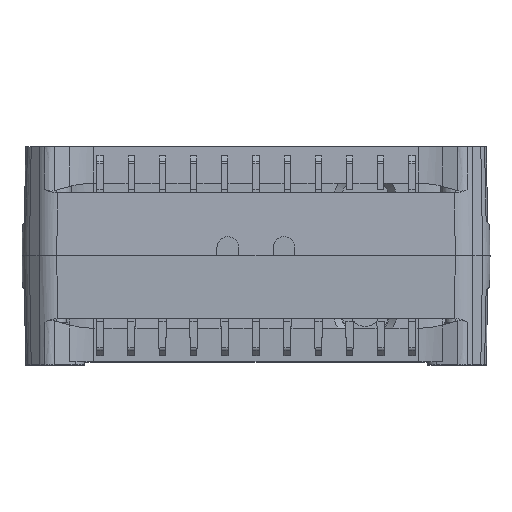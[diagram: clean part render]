
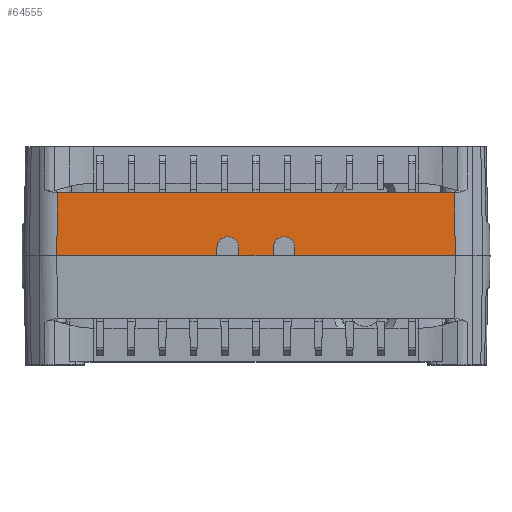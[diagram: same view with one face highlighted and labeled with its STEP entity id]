
A CAD part, top view. The second image highlights one B-rep face of the part: STEP entity #64555.
In plain terms, the highlighted planar face has unit normal (0, 0.018, 1).
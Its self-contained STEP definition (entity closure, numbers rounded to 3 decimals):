
#1798 = EDGE_CURVE ( 'NONE', #99954, #37075, #103978, .T. ) ;
#2261 = LINE ( 'NONE', #51027, #89718 ) ;
#4376 = DIRECTION ( 'NONE',  ( 1., 0., 0. ) ) ;
#5863 = DIRECTION ( 'NONE',  ( 0., 0.017, 1. ) ) ;
#6000 = DIRECTION ( 'NONE',  ( 0., -1., 0.017 ) ) ;
#8360 = CARTESIAN_POINT ( 'NONE',  ( -63.683, 20.178, 54.648 ) ) ;
#11103 = ORIENTED_EDGE ( 'NONE', *, *, #100384, .T. ) ;
#11147 = CARTESIAN_POINT ( 'NONE',  ( 12.5, 2.6, 54.955 ) ) ;
#13738 = DIRECTION ( 'NONE',  ( 0., -1., 0.017 ) ) ;
#15190 = VERTEX_POINT ( 'NONE', #93442 ) ;
#15292 = VERTEX_POINT ( 'NONE', #113140 ) ;
#15996 = LINE ( 'NONE', #39729, #79476 ) ;
#17440 = FACE_OUTER_BOUND ( 'NONE', #54175, .T. ) ;
#17984 = CARTESIAN_POINT ( 'NONE',  ( 12.5, 9.6, 54.832 ) ) ;
#18807 = LINE ( 'NONE', #102452, #87951 ) ;
#19726 = EDGE_CURVE ( 'NONE', #89472, #53115, #18807, .T. ) ;
#19858 = EDGE_CURVE ( 'NONE', #23710, #89472, #15996, .T. ) ;
#20987 = CARTESIAN_POINT ( 'NONE',  ( -63.829, 0., 55. ) ) ;
#21052 = VECTOR ( 'NONE', #110509, 1000. ) ;
#22971 = CARTESIAN_POINT ( 'NONE',  ( 5.5, 2.6, 54.955 ) ) ;
#23710 = VERTEX_POINT ( 'NONE', #27021 ) ;
#27021 = CARTESIAN_POINT ( 'NONE',  ( 12.5, 0., 55. ) ) ;
#27033 = CARTESIAN_POINT ( 'NONE',  ( 5.5, 9.6, 54.832 ) ) ;
#27526 = CARTESIAN_POINT ( 'NONE',  ( -5.5, 0., 55. ) ) ;
#30679 = DIRECTION ( 'NONE',  ( 0., 1., -0.017 ) ) ;
#34674 = DIRECTION ( 'NONE',  ( 0., -1., 0.017 ) ) ;
#34913 = CARTESIAN_POINT ( 'NONE',  ( -5.5, 2.6, 54.955 ) ) ;
#37075 = VERTEX_POINT ( 'NONE', #22971 ) ;
#37581 = VECTOR ( 'NONE', #71757, 1000. ) ;
#38215 = ORIENTED_EDGE ( 'NONE', *, *, #90638, .F. ) ;
#38383 =( BOUNDED_CURVE ( )  B_SPLINE_CURVE ( 3, ( #115107, #79596, #52786, #97372 ),
 .UNSPECIFIED., .F., .T. ) 
 B_SPLINE_CURVE_WITH_KNOTS ( ( 4, 4 ),
 ( 4.712, 7.854 ),
 .UNSPECIFIED. ) 
 CURVE ( )  GEOMETRIC_REPRESENTATION_ITEM ( )  RATIONAL_B_SPLINE_CURVE ( ( 1., 0.333, 0.333, 1. ) ) 
 REPRESENTATION_ITEM ( '' )  );
#39729 = CARTESIAN_POINT ( 'NONE',  ( 67.142, 0., 55. ) ) ;
#40496 = EDGE_CURVE ( 'NONE', #37075, #89137, #2261, .T. ) ;
#42563 = LINE ( 'NONE', #112459, #104735 ) ;
#43384 = CARTESIAN_POINT ( 'NONE',  ( 63.829, 0., 55. ) ) ;
#45115 = EDGE_CURVE ( 'NONE', #74945, #89137, #42563, .T. ) ;
#46494 = ORIENTED_EDGE ( 'NONE', *, *, #82310, .F. ) ;
#47013 = CARTESIAN_POINT ( 'NONE',  ( -63.822, 0.947, 54.983 ) ) ;
#47955 = ORIENTED_EDGE ( 'NONE', *, *, #19726, .T. ) ;
#48041 = DIRECTION ( 'NONE',  ( -0.007, 1., -0.017 ) ) ;
#49160 = ORIENTED_EDGE ( 'NONE', *, *, #71282, .F. ) ;
#49198 = DIRECTION ( 'NONE',  ( 1., 0., 0. ) ) ;
#50229 = ORIENTED_EDGE ( 'NONE', *, *, #69779, .T. ) ;
#50295 = LINE ( 'NONE', #62690, #37581 ) ;
#50367 = VERTEX_POINT ( 'NONE', #8360 ) ;
#51027 = CARTESIAN_POINT ( 'NONE',  ( 5.5, 0., 55. ) ) ;
#52508 = EDGE_CURVE ( 'NONE', #64861, #15190, #38383, .T. ) ;
#52786 = CARTESIAN_POINT ( 'NONE',  ( -12.5, 9.6, 54.832 ) ) ;
#53115 = VERTEX_POINT ( 'NONE', #78563 ) ;
#54175 = EDGE_LOOP ( 'NONE', ( #96827, #75865, #49160, #95705, #47955, #38215, #50229, #11103, #56937, #106850, #46494, #91655 ) ) ;
#56937 = ORIENTED_EDGE ( 'NONE', *, *, #85339, .F. ) ;
#59940 = PLANE ( 'NONE',  #83549 ) ;
#62690 = CARTESIAN_POINT ( 'NONE',  ( 67.142, 0., 55. ) ) ;
#64555 = ADVANCED_FACE ( 'NONE', ( #17440 ), #59940, .T. ) ;
#64861 = VERTEX_POINT ( 'NONE', #34913 ) ;
#64995 = LINE ( 'NONE', #47013, #110162 ) ;
#67613 = LINE ( 'NONE', #102227, #21052 ) ;
#69779 = EDGE_CURVE ( 'NONE', #50367, #87877, #64995, .T. ) ;
#71000 = CARTESIAN_POINT ( 'NONE',  ( 67.142, 0., 55. ) ) ;
#71239 = LINE ( 'NONE', #76822, #76906 ) ;
#71282 = EDGE_CURVE ( 'NONE', #23710, #99954, #67613, .T. ) ;
#71757 = DIRECTION ( 'NONE',  ( 1., 0., 0. ) ) ;
#72640 = DIRECTION ( 'NONE',  ( -0.007, -1., 0.017 ) ) ;
#74945 = VERTEX_POINT ( 'NONE', #95912 ) ;
#75865 = ORIENTED_EDGE ( 'NONE', *, *, #1798, .F. ) ;
#76822 = CARTESIAN_POINT ( 'NONE',  ( -67.07, 20.178, 54.648 ) ) ;
#76906 = VECTOR ( 'NONE', #112316, 1000. ) ;
#78563 = CARTESIAN_POINT ( 'NONE',  ( 63.683, 20.178, 54.648 ) ) ;
#79476 = VECTOR ( 'NONE', #49198, 1000. ) ;
#79596 = CARTESIAN_POINT ( 'NONE',  ( -5.5, 9.6, 54.832 ) ) ;
#82310 = EDGE_CURVE ( 'NONE', #74945, #64861, #115977, .T. ) ;
#83549 = AXIS2_PLACEMENT_3D ( 'NONE', #71000, #5863, #34674 ) ;
#85339 = EDGE_CURVE ( 'NONE', #15190, #15292, #93096, .T. ) ;
#87877 = VERTEX_POINT ( 'NONE', #20987 ) ;
#87951 = VECTOR ( 'NONE', #48041, 1000. ) ;
#89137 = VERTEX_POINT ( 'NONE', #108165 ) ;
#89472 = VERTEX_POINT ( 'NONE', #43384 ) ;
#89718 = VECTOR ( 'NONE', #6000, 1000. ) ;
#90138 = CARTESIAN_POINT ( 'NONE',  ( 5.5, 2.6, 54.955 ) ) ;
#90638 = EDGE_CURVE ( 'NONE', #50367, #53115, #71239, .T. ) ;
#91655 = ORIENTED_EDGE ( 'NONE', *, *, #45115, .T. ) ;
#91707 = CARTESIAN_POINT ( 'NONE',  ( 12.5, 2.6, 54.955 ) ) ;
#93096 = LINE ( 'NONE', #104461, #114268 ) ;
#93442 = CARTESIAN_POINT ( 'NONE',  ( -12.5, 2.6, 54.955 ) ) ;
#95705 = ORIENTED_EDGE ( 'NONE', *, *, #19858, .T. ) ;
#95912 = CARTESIAN_POINT ( 'NONE',  ( -5.5, 0., 55. ) ) ;
#96827 = ORIENTED_EDGE ( 'NONE', *, *, #40496, .F. ) ;
#97372 = CARTESIAN_POINT ( 'NONE',  ( -12.5, 2.6, 54.955 ) ) ;
#99954 = VERTEX_POINT ( 'NONE', #11147 ) ;
#100384 = EDGE_CURVE ( 'NONE', #87877, #15292, #50295, .T. ) ;
#101878 = VECTOR ( 'NONE', #30679, 1000. ) ;
#102227 = CARTESIAN_POINT ( 'NONE',  ( 12.5, 0., 55. ) ) ;
#102452 = CARTESIAN_POINT ( 'NONE',  ( 63.829, -0.024, 55. ) ) ;
#103978 =( BOUNDED_CURVE ( )  B_SPLINE_CURVE ( 3, ( #91707, #17984, #27033, #90138 ),
 .UNSPECIFIED., .F., .T. ) 
 B_SPLINE_CURVE_WITH_KNOTS ( ( 4, 4 ),
 ( 4.712, 7.854 ),
 .UNSPECIFIED. ) 
 CURVE ( )  GEOMETRIC_REPRESENTATION_ITEM ( )  RATIONAL_B_SPLINE_CURVE ( ( 1., 0.333, 0.333, 1. ) ) 
 REPRESENTATION_ITEM ( '' )  );
#104461 = CARTESIAN_POINT ( 'NONE',  ( -12.5, 0., 55. ) ) ;
#104735 = VECTOR ( 'NONE', #4376, 1000. ) ;
#106850 = ORIENTED_EDGE ( 'NONE', *, *, #52508, .F. ) ;
#108165 = CARTESIAN_POINT ( 'NONE',  ( 5.5, 0., 55. ) ) ;
#110162 = VECTOR ( 'NONE', #72640, 1000. ) ;
#110509 = DIRECTION ( 'NONE',  ( 0., 1., -0.017 ) ) ;
#112316 = DIRECTION ( 'NONE',  ( 1., 0., 0. ) ) ;
#112459 = CARTESIAN_POINT ( 'NONE',  ( 67.142, 0., 55. ) ) ;
#113140 = CARTESIAN_POINT ( 'NONE',  ( -12.5, 0., 55. ) ) ;
#114268 = VECTOR ( 'NONE', #13738, 1000. ) ;
#115107 = CARTESIAN_POINT ( 'NONE',  ( -5.5, 2.6, 54.955 ) ) ;
#115977 = LINE ( 'NONE', #27526, #101878 ) ;
